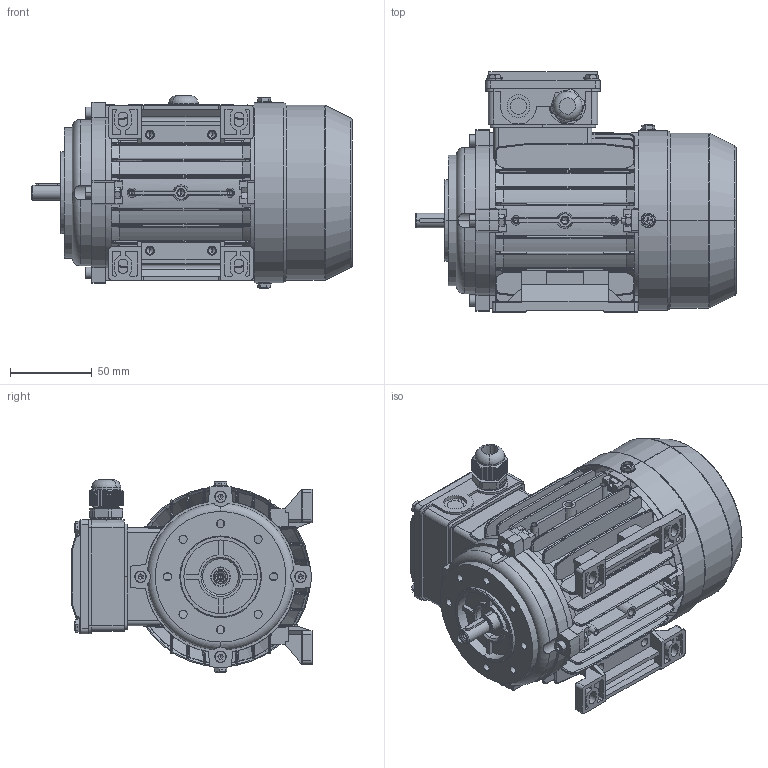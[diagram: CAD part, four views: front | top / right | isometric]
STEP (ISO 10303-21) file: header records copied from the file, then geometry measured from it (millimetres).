
FILE_DESCRIPTION (( 'STEP AP203' ), '1' );
FILE_NAME ('D56 assembly B34.STEP', '2018-11-19T06:04:16', ( 'user' ), ( 'china' ), 'SwSTEP 2.0', 'SolidWorks 2016', '' );
FILE_SCHEMA (( 'CONFIG_CONTROL_DESIGN' ));
Length unit declared in the file: millimetre
Products named in the file (16): GB-T 70.1-2000 M4_18; GB-T 5780-2000 M4_020; M56傷裔B14; GB-T 29.2-1988 M4鞠褒坋趼湍菜_05; M56瑞欶; M56菁褐; MS56諉盄碟(苤); M56儂褲; MS56 綴裔瑞欶郪磁; M56-Shaft drive end_R; MS56諉盄碟釱(苤)_1Hole; M56傷裔B3_N; GB-T 41-2000 M4; M16 cable gland; MS56諉盄碟裔(苤)_MS56; D56 assembly B34
Assembly tree (29 placements, depth 3):
  D56 assembly B34
    M56儂褲
    M56-Shaft drive end_R
    MS56 綴裔瑞欶郪磁
      M56傷裔B3_N
      M56瑞欶
      GB-T 29.2-1988 M4鞠褒坋趼湍菜_05  x3
    GB-T 41-2000 M4  x5
    GB-T 70.1-2000 M4_18  x4
    GB-T 5780-2000 M4_020
    M56菁褐  x2
    MS56諉盄碟(苤)
      MS56諉盄碟釱(苤)_1Hole
      MS56諉盄碟裔(苤)_MS56
      GB-T 29.2-1988 M4鞠褒坋趼湍菜_05  x4
      M16 cable gland
    M56傷裔B14
Bounding box: 196.5 x 147 x 117.9 mm (x, y, z)
Volume: 296404.5 mm3; surface area: 285102.9 mm2
Topology: 27 solids, 27 shells, 3152 faces, 7927 edges, 4862 vertices
Faces by surface type: plane 1371, cylinder 924, cone 382, bspline 302, torus 96, sphere 77
Entity records: 96199 total; most frequent: CARTESIAN_POINT 35783, ORIENTED_EDGE 12668, DIRECTION 11501, EDGE_CURVE 6334, AXIS2_PLACEMENT_3D 4101, VERTEX_POINT 3994, VECTOR 3299, LINE 3299
